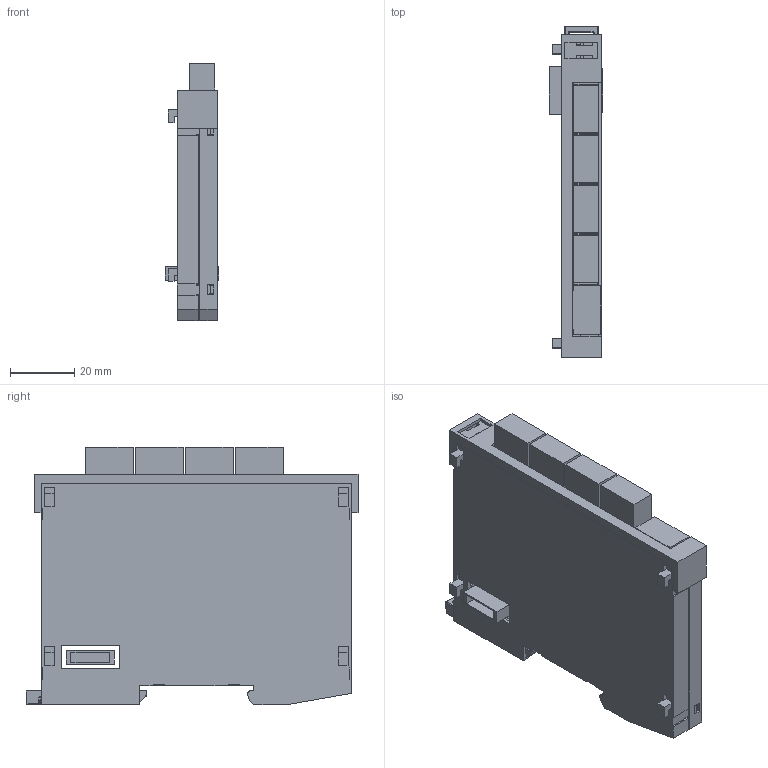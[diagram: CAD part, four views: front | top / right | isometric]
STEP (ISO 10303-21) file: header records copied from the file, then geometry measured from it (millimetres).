
FILE_DESCRIPTION (( 'STEP AP214' ), '1' );
FILE_NAME ('AI023 support.STEP', '2020-08-04T06:32:09', ( 'Windows-Benutzer' ), ( '' ), 'SwSTEP 2.0', 'SolidWorks 2018', '' );
FILE_SCHEMA (( 'AUTOMOTIVE_DESIGN' ));
Length unit declared in the file: millimetre
Products named in the file (11): Dummy_4080225345 Erni Buchse; Dummy_4110262104 4pol.Federkraftstecker f.2reih 1952283; AI023 support; ZM1420-3123-10 Steckerabdeckung S-Dias; Dummy_4080225346 Erni Stift; Dummy_4110251205 4pol.Minicombicon-Grundgehäuse RM3,5 1937512; S-Dias Schale links_f Suport; ZM1505-2730-10 Rasthaken S-Dias; S-Dias Schale rechts_f Suport; LP_AI043; Schieber_f Suport
Assembly tree (16 placements, depth 3):
  AI023 support
    S-Dias Schale links_f Suport
    S-Dias Schale rechts_f Suport
    Schieber_f Suport
    LP_AI043
      Dummy_4080225345 Erni Buchse
      Dummy_4080225346 Erni Stift
      Dummy_4110251205 4pol.Minicombicon-Grundgehäuse RM3,5 1937512  x4
      Dummy_4110262104 4pol.Federkraftstecker f.2reih 1952283  x4
    ZM1420-3123-10 Steckerabdeckung S-Dias
    ZM1505-2730-10 Rasthaken S-Dias
Bounding box: 16.8 x 103.48 x 80.15 mm (x, y, z)
Volume: 32313.1 mm3; surface area: 45611.4 mm2
Topology: 15 solids, 15 shells, 826 faces, 2382 edges, 1580 vertices
Faces by surface type: plane 589, cylinder 127, bspline 72, cone 28, torus 10
Entity records: 27718 total; most frequent: CARTESIAN_POINT 7402, ORIENTED_EDGE 4566, DIRECTION 3532, EDGE_CURVE 2283, LINE 1648, VECTOR 1648, VERTEX_POINT 1520, AXIS2_PLACEMENT_3D 942
